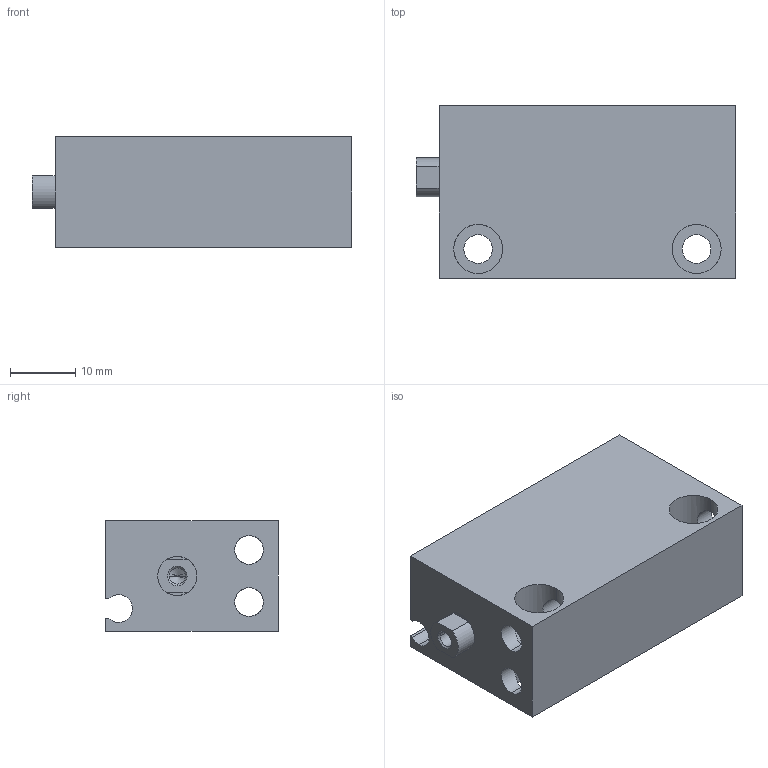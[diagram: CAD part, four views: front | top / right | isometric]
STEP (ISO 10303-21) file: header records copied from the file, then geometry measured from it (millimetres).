
FILE_DESCRIPTION (( 'STEP AP203' ), '1' );
FILE_NAME ('CLJB12-30.STEP', '2020-07-30T18:50:26', ( '' ), ( '' ), 'SwSTEP 2.0', 'SolidWorks 2019', '' );
FILE_SCHEMA (( 'CONFIG_CONTROL_DESIGN' ));
Length unit declared in the file: millimetre
Products named in the file (1): CLJB12-30
Bounding box: 49 x 26.5 x 17 mm (x, y, z)
Volume: 15047.3 mm3; surface area: 9240.9 mm2
Topology: 2 solids, 2 shells, 75 faces, 188 edges, 113 vertices
Faces by surface type: cylinder 41, plane 22, cone 12
Entity records: 3119 total; most frequent: CARTESIAN_POINT 1223, DIRECTION 394, ORIENTED_EDGE 364, EDGE_CURVE 182, AXIS2_PLACEMENT_3D 152, VERTEX_POINT 113, EDGE_LOOP 93, LINE 90
